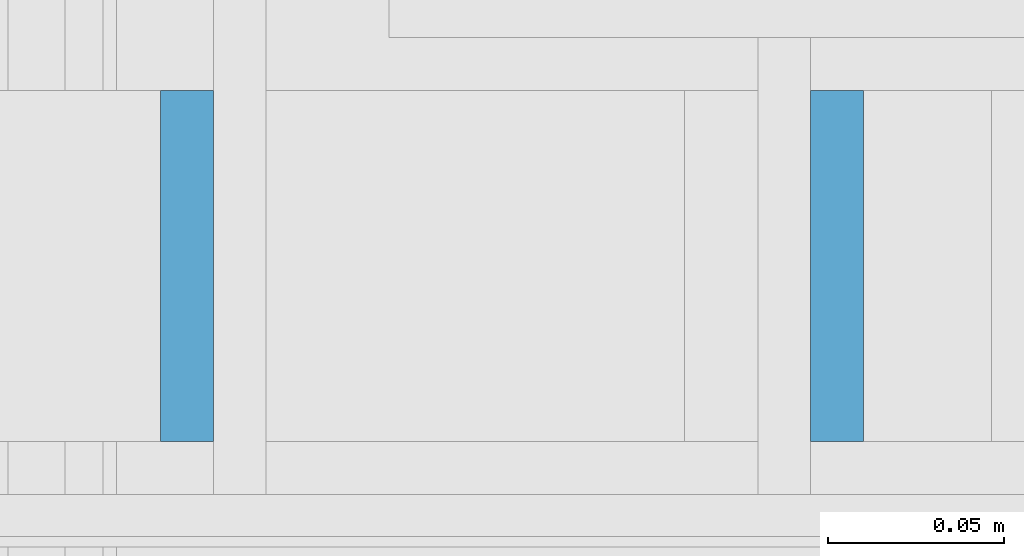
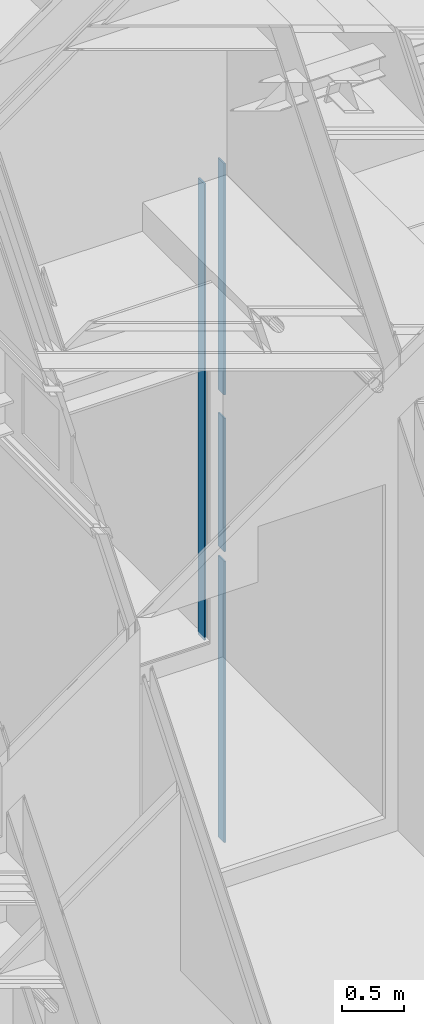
# One storey, part 156 of 583: 4 building element parts, 1 element without a shape of its own.
"""IFC2X3 building model written with IfcOpenShell, lengths in metres."""

from ifc_helpers import new_model, entity, si_unit, converted_unit, derived_unit, money_unit, direction, frame, frame_2d, origin_with_axes, place, context, subcontext, project, spatial, rectangle, extrude, material, type_object, element, aggregate, save


model = new_model("IFC2X3")

# Units and contexts
model_context = context("Model", 3, precision=1e-05, world=origin_with_axes(), true_north=direction((0.0, 1.0)))
body_context = subcontext(model_context, "Body", "Model", "MODEL_VIEW", scale=1.0)
ifc_project = project(units=[si_unit("LENGTHUNIT", "METRE"), si_unit("AREAUNIT", "SQUARE_METRE"), si_unit("VOLUMEUNIT", "CUBIC_METRE"), si_unit("ABSORBEDDOSEUNIT", "GRAY"), si_unit("AMOUNTOFSUBSTANCEUNIT", "MOLE"), si_unit("DOSEEQUIVALENTUNIT", "SIEVERT"), si_unit("ELECTRICCAPACITANCEUNIT", "FARAD"), si_unit("ELECTRICCHARGEUNIT", "COULOMB"), si_unit("ELECTRICCONDUCTANCEUNIT", "SIEMENS"), si_unit("ELECTRICCURRENTUNIT", "AMPERE"), si_unit("ELECTRICRESISTANCEUNIT", "OHM"), si_unit("ELECTRICVOLTAGEUNIT", "VOLT"), si_unit("ENERGYUNIT", "JOULE"), si_unit("FORCEUNIT", "NEWTON"), si_unit("FREQUENCYUNIT", "HERTZ"), si_unit("ILLUMINANCEUNIT", "LUX"), si_unit("INDUCTANCEUNIT", "HENRY"), si_unit("LUMINOUSFLUXUNIT", "LUMEN"), si_unit("LUMINOUSINTENSITYUNIT", "CANDELA"), si_unit("MAGNETICFLUXDENSITYUNIT", "TESLA"), si_unit("MAGNETICFLUXUNIT", "WEBER"), si_unit("MASSUNIT", "GRAM"), converted_unit("PLANEANGLEUNIT", "degree", entity("IfcReal", 0.0174532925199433), si_unit("PLANEANGLEUNIT", "RADIAN"), dimensions=[0, 0, 0, 0, 0, 0, 0]), si_unit("POWERUNIT", "WATT"), si_unit("PRESSUREUNIT", "PASCAL"), si_unit("RADIOACTIVITYUNIT", "BECQUEREL"), si_unit("SOLIDANGLEUNIT", "STERADIAN"), si_unit("THERMODYNAMICTEMPERATUREUNIT", "KELVIN"), si_unit("TIMEUNIT", "SECOND"), derived_unit("ACCELERATIONUNIT", [(si_unit("LENGTHUNIT", "METRE"), 1), (si_unit("TIMEUNIT", "SECOND"), -2)]), derived_unit("ANGULARVELOCITYUNIT", [(converted_unit("PLANEANGLEUNIT", "degree", entity("IfcReal", 0.0174532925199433), si_unit("PLANEANGLEUNIT", "RADIAN"), dimensions=[0, 0, 0, 0, 0, 0, 0]), 1), (si_unit("TIMEUNIT", "SECOND"), -1)]), derived_unit("CURVATUREUNIT", [(converted_unit("PLANEANGLEUNIT", "degree", entity("IfcReal", 0.0174532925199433), si_unit("PLANEANGLEUNIT", "RADIAN"), dimensions=[0, 0, 0, 0, 0, 0, 0]), 1), (si_unit("LENGTHUNIT", "METRE"), -1)]), derived_unit("DYNAMICVISCOSITYUNIT", [(si_unit("PRESSUREUNIT", "PASCAL"), 1), (si_unit("TIMEUNIT", "SECOND"), 1)]), derived_unit("HEATFLUXDENSITYUNIT", [(si_unit("POWERUNIT", "WATT"), 1), (si_unit("LENGTHUNIT", "METRE"), -2)]), derived_unit("HEATINGVALUEUNIT", [(si_unit("ENERGYUNIT", "JOULE"), 1), (si_unit("MASSUNIT", "GRAM"), -1)]), derived_unit("INTEGERCOUNTRATEUNIT", [(si_unit("TIMEUNIT", "SECOND"), -1)]), derived_unit("IONCONCENTRATIONUNIT", [(si_unit("MASSUNIT", "GRAM"), 1), (si_unit("VOLUMEUNIT", "CUBIC_METRE"), -1)]), derived_unit("ISOTHERMALMOISTURECAPACITYUNIT", [(si_unit("VOLUMEUNIT", "CUBIC_METRE"), 1), (si_unit("MASSUNIT", "GRAM"), -1)]), derived_unit("KINEMATICVISCOSITYUNIT", [(si_unit("AREAUNIT", "SQUARE_METRE"), 1), (si_unit("TIMEUNIT", "SECOND"), -1)]), derived_unit("LINEARFORCEUNIT", [(si_unit("FORCEUNIT", "NEWTON"), 1), (si_unit("LENGTHUNIT", "METRE"), -1)]), derived_unit("LINEARMOMENTUNIT", [(si_unit("FORCEUNIT", "NEWTON"), 1), (si_unit("LENGTHUNIT", "METRE"), -1)]), derived_unit("LINEARSTIFFNESSUNIT", [(si_unit("FORCEUNIT", "NEWTON"), 1), (si_unit("LENGTHUNIT", "METRE"), -1)]), derived_unit("LINEARVELOCITYUNIT", [(si_unit("LENGTHUNIT", "METRE"), 1), (si_unit("TIMEUNIT", "SECOND"), -1)]), derived_unit("LUMINOUSINTENSITYDISTRIBUTIONUNIT", [(si_unit("LUMINOUSINTENSITYUNIT", "CANDELA"), 1), (si_unit("LUMINOUSFLUXUNIT", "LUMEN"), -1)]), derived_unit("MASSDENSITYUNIT", [(si_unit("MASSUNIT", "GRAM"), 1), (si_unit("VOLUMEUNIT", "CUBIC_METRE"), -1)]), derived_unit("MASSFLOWRATEUNIT", [(si_unit("MASSUNIT", "GRAM"), 1), (si_unit("TIMEUNIT", "SECOND"), -1)]), derived_unit("MASSPERLENGTHUNIT", [(si_unit("MASSUNIT", "GRAM"), 1), (si_unit("LENGTHUNIT", "METRE"), -1)]), derived_unit("MODULUSOFELASTICITYUNIT", [(si_unit("FORCEUNIT", "NEWTON"), 1), (si_unit("AREAUNIT", "SQUARE_METRE"), -1)]), derived_unit("MODULUSOFLINEARSUBGRADEREACTIONUNIT", [(si_unit("FORCEUNIT", "NEWTON"), 1), (si_unit("LENGTHUNIT", "METRE"), -2)]), derived_unit("MODULUSOFROTATIONALSUBGRADEREACTIONUNIT", [(si_unit("FORCEUNIT", "NEWTON"), 1), (si_unit("LENGTHUNIT", "METRE"), 1)]), derived_unit("MODULUSOFSUBGRADEREACTIONUNIT", [(si_unit("FORCEUNIT", "NEWTON"), 1), (si_unit("VOLUMEUNIT", "CUBIC_METRE"), -1)]), derived_unit("MOISTUREDIFFUSIVITYUNIT", [(si_unit("VOLUMEUNIT", "CUBIC_METRE"), 1), (si_unit("TIMEUNIT", "SECOND"), -1)]), derived_unit("MOLECULARWEIGHTUNIT", [(si_unit("MASSUNIT", "GRAM"), 1), (si_unit("AMOUNTOFSUBSTANCEUNIT", "MOLE"), -1)]), derived_unit("PLANARFORCEUNIT", [(si_unit("FORCEUNIT", "NEWTON"), 1), (si_unit("LENGTHUNIT", "METRE"), -2)]), derived_unit("ROTATIONALFREQUENCYUNIT", [(si_unit("TIMEUNIT", "SECOND"), -1)]), derived_unit("ROTATIONALMASSUNIT", [(si_unit("MASSUNIT", "GRAM"), 1), (si_unit("LENGTHUNIT", "METRE"), 2)]), derived_unit("ROTATIONALSTIFFNESSUNIT", [(si_unit("FORCEUNIT", "NEWTON"), 1), (si_unit("LENGTHUNIT", "METRE"), 1), (converted_unit("PLANEANGLEUNIT", "degree", entity("IfcReal", 0.0174532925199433), si_unit("PLANEANGLEUNIT", "RADIAN"), dimensions=[0, 0, 0, 0, 0, 0, 0]), -1)]), derived_unit("SECTIONAREAINTEGRALUNIT", [(si_unit("LENGTHUNIT", "METRE"), 5)]), derived_unit("SECTIONMODULUSUNIT", [(si_unit("LENGTHUNIT", "METRE"), 3)]), derived_unit("SHEARMODULUSUNIT", [(si_unit("FORCEUNIT", "NEWTON"), 1), (si_unit("AREAUNIT", "SQUARE_METRE"), -1)]), derived_unit("SOUNDPOWERUNIT", [(si_unit("ENERGYUNIT", "JOULE"), 1), (si_unit("TIMEUNIT", "SECOND"), -1)]), derived_unit("SPECIFICHEATCAPACITYUNIT", [(si_unit("FORCEUNIT", "NEWTON"), 1), (si_unit("MASSUNIT", "GRAM"), -1), (si_unit("THERMODYNAMICTEMPERATUREUNIT", "KELVIN"), -1)]), derived_unit("TEMPERATUREGRADIENTUNIT", [(si_unit("THERMODYNAMICTEMPERATUREUNIT", "KELVIN"), 1), (si_unit("LENGTHUNIT", "METRE"), -1)]), derived_unit("THERMALADMITTANCEUNIT", [(si_unit("POWERUNIT", "WATT"), 1), (si_unit("AREAUNIT", "SQUARE_METRE"), -1), (si_unit("THERMODYNAMICTEMPERATUREUNIT", "KELVIN"), -1)]), derived_unit("THERMALCONDUCTANCEUNIT", [(si_unit("POWERUNIT", "WATT"), 1), (si_unit("LENGTHUNIT", "METRE"), -1), (si_unit("THERMODYNAMICTEMPERATUREUNIT", "KELVIN"), -1)]), derived_unit("THERMALEXPANSIONCOEFFICIENTUNIT", [(si_unit("THERMODYNAMICTEMPERATUREUNIT", "KELVIN"), -1)]), derived_unit("THERMALRESISTANCEUNIT", [(si_unit("AREAUNIT", "SQUARE_METRE"), 1), (si_unit("POWERUNIT", "WATT"), -1)]), derived_unit("THERMALTRANSMITTANCEUNIT", [(si_unit("POWERUNIT", "WATT"), 1), (si_unit("AREAUNIT", "SQUARE_METRE"), -1), (si_unit("THERMODYNAMICTEMPERATUREUNIT", "KELVIN"), -1)]), derived_unit("TORQUEUNIT", [(si_unit("FORCEUNIT", "NEWTON"), 1), (si_unit("LENGTHUNIT", "METRE"), 1)]), derived_unit("VAPORPERMEABILITYUNIT", [(si_unit("MASSUNIT", "GRAM"), 1), (si_unit("TIMEUNIT", "SECOND"), -1)]), derived_unit("VOLUMETRICFLOWRATEUNIT", [(si_unit("VOLUMEUNIT", "CUBIC_METRE"), 1), (si_unit("TIMEUNIT", "SECOND"), -1)]), derived_unit("WARPINGCONSTANTUNIT", [(si_unit("LENGTHUNIT", "METRE"), 6)]), derived_unit("WARPINGMOMENTUNIT", [(si_unit("FORCEUNIT", "NEWTON"), 1), (si_unit("LENGTHUNIT", "METRE"), 2)]), money_unit("GBP")], contexts=[model_context])

# Site, building, storey
site_placement = place(None, origin_with_axes())
site = spatial("IfcSite", under=ifc_project, at=site_placement, Name="Site", CompositionType="ELEMENT")
building_placement = place(site_placement, origin_with_axes())
building = spatial("IfcBuilding", under=site, at=building_placement, Name="Building01", CompositionType="ELEMENT")
storey_placement = place(building_placement, frame((0.0, 0.0, 20.78), z_axis=(0.0, 0.0, 1.0), x_axis=(1.0, 0.0, 0.0)))
storey = spatial("IfcBuildingStorey", under=building, at=storey_placement, Name="RL", CompositionType="ELEMENT", Elevation=20.78)

# Wall, building element parts
wall_type = type_object("IfcWallType", Name="SHE_A-Walls_Type03a_BlockworkWall_170mm", PredefinedType="NOTDEFINED")
wall_placement = place(storey_placement, frame((8.665, 14.98, -11.565), z_axis=(0.0, 1.0, 0.0), x_axis=(0.0, 0.0, 1.0)))
wall = element("IfcWall", 1, at=wall_placement, inside=storey, type_object=wall_type, Name="4B", ObjectType="SHE_A-Walls_Type03a_BlockworkWall_170mm")
ifc_material = material(Name="A_BSUK_Walls_Timber")
placement = place(wall_placement, origin_with_axes())
building_element_part_1 = element("IfcBuildingElementPart", 2, at=placement, material=ifc_material, Name="2", context=body_context, shape_type="SweptSolid", body=[
    extrude(rectangle(XDim=2.787381, YDim=0.015, at=frame_2d((1.40869, 0.1625), x_axis=(-1.0, 0.0))), frame((0.0, 0.0, 0.015), z_axis=(0.0, 0.0, 1.0), x_axis=(1.0, 0.0, 0.0)), (0.0, 0.0, 1.0), 0.1),
])
building_element_part_2 = element("IfcBuildingElementPart", 3, at=placement, material=ifc_material, Name="5", context=body_context, shape_type="SweptSolid", body=[
    extrude(rectangle(XDim=4.52344, YDim=0.015, at=frame_2d((4.34672, -0.0225), x_axis=(-1.0, 0.0))), frame((0.0, 0.0, 0.015), z_axis=(0.0, 0.0, 1.0), x_axis=(1.0, 0.0, 0.0)), (0.0, 0.0, 1.0), 0.1),
])
building_element_part_3 = element("IfcBuildingElementPart", 4, at=placement, material=ifc_material, Name="6", context=body_context, shape_type="SweptSolid", body=[
    extrude(rectangle(XDim=2.29344, YDim=0.015, at=frame_2d((5.59672, 0.1625), x_axis=(-1.0, 0.0))), frame((0.0, 0.0, 0.015), z_axis=(0.0, 0.0, 1.0), x_axis=(1.0, 0.0, 0.0)), (0.0, 0.0, 1.0), 0.1),
])
building_element_part_4 = element("IfcBuildingElementPart", 5, at=placement, material=ifc_material, Name="7", context=body_context, shape_type="SweptSolid", body=[
    extrude(rectangle(XDim=1.322619, YDim=0.015, at=frame_2d((3.55869, 0.1625), x_axis=(-1.0, 0.0))), frame((0.0, 0.0, 0.015), z_axis=(0.0, 0.0, 1.0), x_axis=(1.0, 0.0, 0.0)), (0.0, 0.0, 1.0), 0.1),
])
aggregate(wall, [building_element_part_1, building_element_part_2, building_element_part_3, building_element_part_4])

save(model, "model.ifc")
